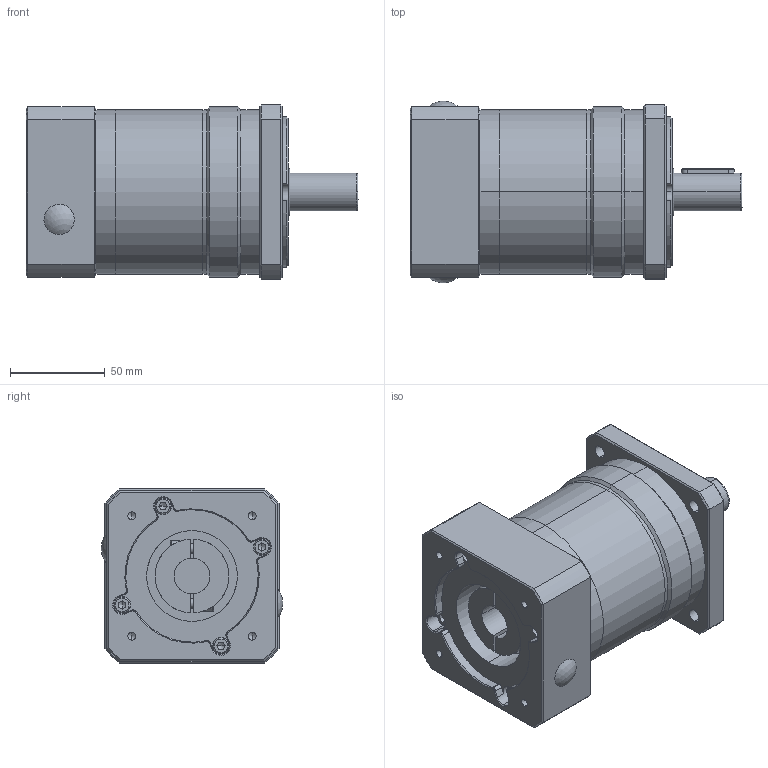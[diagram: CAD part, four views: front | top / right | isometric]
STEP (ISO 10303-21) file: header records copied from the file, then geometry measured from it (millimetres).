
FILE_DESCRIPTION (( 'STEP AP214' ), '1' );
FILE_NAME ('PLF-090-L2-S2-P2 19-70-90-M5.STEP', '2023-08-31T02:43:47', ( '微软用户' ), ( '微软中国' ), 'SwSTEP 2.0', 'SolidWorks 2018', '' );
FILE_SCHEMA (( 'AUTOMOTIVE_DESIGN' ));
Length unit declared in the file: millimetre
Products named in the file (7): PLF-090输入端盖-外形70-M6-90; PLF-090-L2-S2-P2 19-70-90-M5; hexagon socket head cap screws gb_GB_FASTENER_SCREWS_HSHCS M5X16-N; PLF-090怀堤傷裔-俋倛; PLF-090二级齿圈-外形; PLF-090薊粣ん-俋倛19; PLF-090黑裔
Assembly tree (16 placements, depth 2):
  PLF-090-L2-S2-P2 19-70-90-M5
    PLF-090怀堤傷裔-俋倛
    PLF-090二级齿圈-外形
    PLF-090输入端盖-外形70-M6-90
    PLF-090薊粣ん-俋倛19
    hexagon socket head cap screws gb_GB_FASTENER_SCREWS_HSHCS M5X16-N  x10
    PLF-090黑裔  x2
Bounding box: 175.5 x 96 x 92 mm (x, y, z)
Volume: 712237.2 mm3; surface area: 122654.4 mm2
Topology: 17 solids, 17 shells, 572 faces, 1358 edges, 835 vertices
Faces by surface type: plane 251, cylinder 183, cone 102, torus 26, sphere 10
Entity records: 14387 total; most frequent: CARTESIAN_POINT 2549, DIRECTION 1815, ORIENTED_EDGE 1594, EDGE_CURVE 797, AXIS2_PLACEMENT_3D 737, VERTEX_POINT 508, EDGE_LOOP 393, CIRCLE 390
